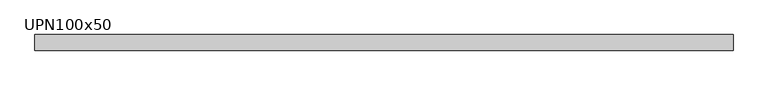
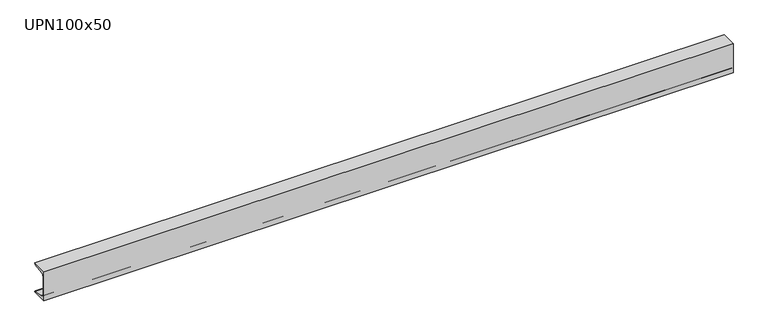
"""IFC4 building model written with IfcOpenShell, lengths in millimetres: beam geometry, M_MC Shapes : UPN100x50."""

from ifc_helpers import new_model, si_unit, point, frame, frame_2d, origin, place, context, project, spatial, polyline, circle_curve, trimmed, segment, composite_curve, outline, extrude, source, transform, mapped, element, save


def upn100x50_c16297ee(model_context):
    return source(origin(), model_context, "Body", "SweptSolid", [
        extrude(outline(composite_curve([segment(polyline([(-10.9, 50.0), (39.1, 50.0), (39.1, 49.0253247)]), True, "CONTINUOUS"), segment(trimmed(circle_curve(frame_2d((35.15, 49.0253247)), 3.95), [point((39.1, 49.0253247))], [point((35.7993773, 45.1290689))], False, "CARTESIAN"), True, "CONTINUOUS"), segment(polyline([(35.7993773, 45.1290689), (0.2512455, 39.2043685)]), True, "CONTINUOUS"), segment(trimmed(circle_curve(frame_2d((1.55, 31.4118569)), 7.9), [point((0.2512455, 39.2043685))], [point((-6.35, 31.4118569))], True, "CARTESIAN"), True, "CONTINUOUS"), segment(polyline([(-6.35, 31.4118569), (-6.35, -31.4118569)]), True, "CONTINUOUS"), segment(trimmed(circle_curve(frame_2d((1.55, -31.4118569)), 7.9), [point((-6.35, -31.4118569))], [point((0.2512455, -39.2043685))], True, "CARTESIAN"), True, "CONTINUOUS"), segment(polyline([(0.2512455, -39.2043685), (35.7993773, -45.1290689)]), True, "CONTINUOUS"), segment(trimmed(circle_curve(frame_2d((35.15, -49.0253247)), 3.95), [point((35.7993773, -45.1290689))], [point((39.1, -49.0253247))], False, "CARTESIAN"), True, "CONTINUOUS"), segment(polyline([(39.1, -49.0253247), (39.1, -50.0), (-10.9, -50.0), (-10.9, 50.0)]), True, "CONTINUOUS")], self_intersect=False)), frame((-1145.85, 0.0, 0.0), z_axis=(1.0, 0.0, 0.0), x_axis=(0.0, 1.0, 0.0)), (0.0, 0.0, 1.0), 2231.3),
    ])


if __name__ == "__main__":
    model = new_model("IFC4")
    model_context = context("Model", 3, world=origin())
    ifc_project = project(units=[si_unit("LENGTHUNIT", "METRE", prefix="MILLI")], contexts=[model_context])
    site = spatial("IfcSite", under=ifc_project)
    building = spatial("IfcBuilding", under=site)
    placement = place(None, origin())
    upn100x50_shape = upn100x50_c16297ee(model_context)
    element("IfcBeam", 1, ObjectType="M_MC Shapes : UPN100x50", at=placement, inside=building, context=model_context, shape_type="MappedRepresentation", body=[
        mapped(upn100x50_shape, transform((0.0, 0.0, 0.0), x_axis=(1.0, 0.0, 0.0), y_axis=(0.0, 1.0, 0.0), z_axis=(0.0, 0.0, 1.0))),
    ])
    save(model, "model.ifc")
